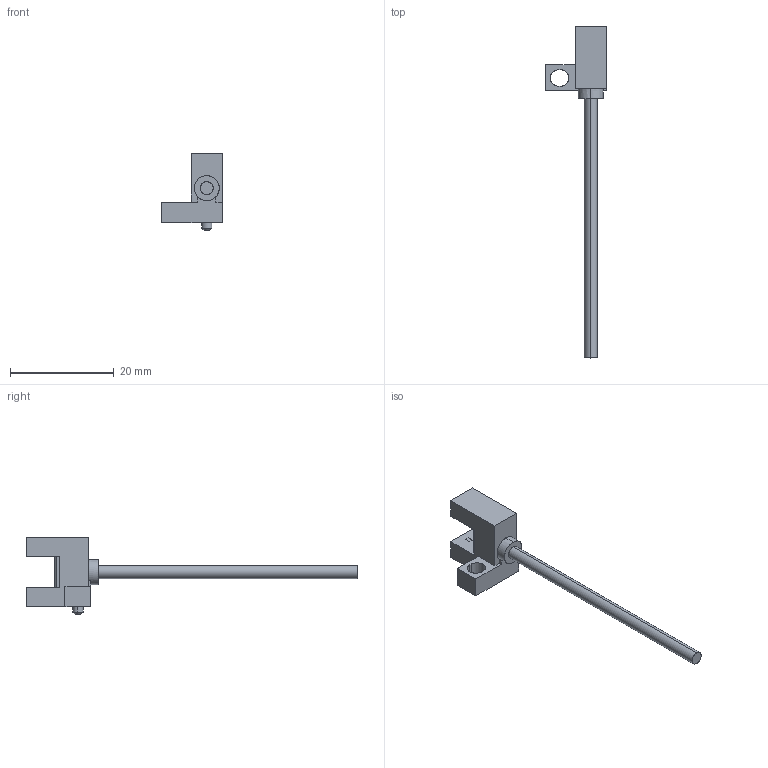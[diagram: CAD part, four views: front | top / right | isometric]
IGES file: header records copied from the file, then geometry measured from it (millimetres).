
Start section: SolidWorks IGES file using analytic representation for surfaces
Global section: file name: C:\catalog\pm-f25.IGS; native system: SolidWorks 2010; preprocessor: SolidWorks 2010; author: C0278; date: 150723.133646; units: millimetre
Bounding box: 11.7 x 64 x 14.9 mm (x, y, z)
Surface area: 1192.5 mm2 (no closed solid volume)
Topology: 0 solids, 0 shells, 65 faces, 550 edges, 550 vertices
Faces by surface type: bspline 54, revolution 11
